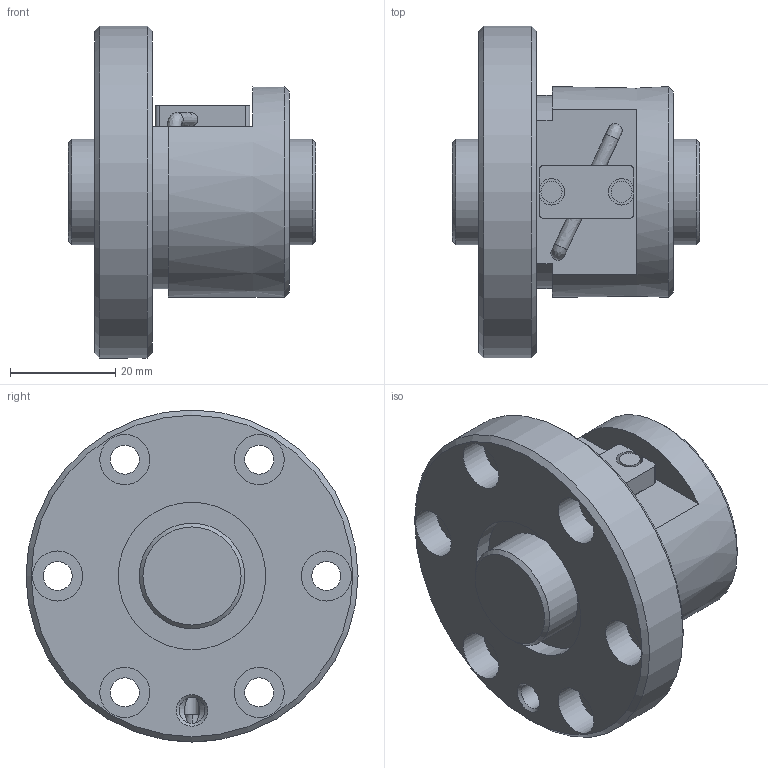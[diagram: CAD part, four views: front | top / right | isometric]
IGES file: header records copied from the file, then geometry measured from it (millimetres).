
Start section: Data from Parasolid IGES Translator 26.0.171, Copyright(c) 2006 Siemens PLM Software. All Rights Reserved.
Global section: file name: BNF2004V-2.5RRG1+47LC0_000_rev.igs; native system: By Siemens PLM Incorporated; preprocessor: XPlus GENERIC/IGES 26.0.171; author: Noname; organization: Noname; date: 20240806.072800; units: millimetre
Bounding box: 47 x 63 x 63 mm (x, y, z)
Surface area: 19179.9 mm2 (no closed solid volume)
Topology: 0 solids, 0 shells, 73 faces, 356 edges, 314 vertices
Faces by surface type: revolution 46, extrusion 27
